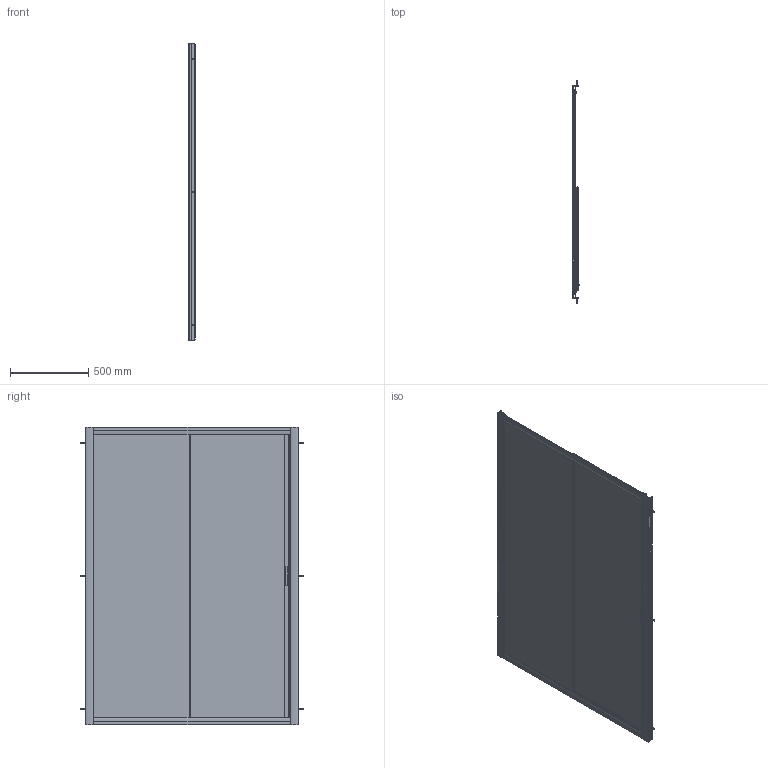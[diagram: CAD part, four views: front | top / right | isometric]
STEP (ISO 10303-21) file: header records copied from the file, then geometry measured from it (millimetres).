
FILE_DESCRIPTION(/* description */ ('VERTICALE TELAIO'),/* implementation_level */ '2;1');
FILE_NAME(/* name */ 'C:\Users\benassi\Desktop\dwg 3D\America quattro 2019\America 4 scorrevole2a 136-143.stp',/* time_stamp */ '2018-07-17T16:04:19+02:00',/* author */ ('benassi'),/* organization */ (''),/* preprocessor_version */ 'ST-DEVELOPER v16.1',/* originating_system */ 'Autodesk Inventor 2016',/* authorisation */ '');
FILE_SCHEMA (('AUTOMOTIVE_DESIGN { 1 0 10303 214 3 1 1 }'));
Products named in the file (39): 10000021273; 10000021561; 10000021560; 10000021285; 10000021562; 10000021295; 10000021296; 10000021564; 10000005270_IPT_000; DIN 9021 - 5,3; ISO 7045 - M4 x 8 - 4.8 - H - ISO; 10000008131; ISO 7049 - ST 2,9 x 19 - F - H; ISO 7049 - ST 3,5 x 22 - F - H; 10000021559; 10000016783; 10000021317; 10000020348; 10000019036; 10000019034; ISO 7049 - ST 3,5 x 9,5 - F - H; 10000021418; 04030279; 10000011143; 10000002064_IPT_000; 10000011144; ISO 7049 - ST 2,9 x 9,5 - F - H; ISO 7050 - ST 3,5 x 13 - C - Z; 10000019608; 10000019607; 10000021289; 10000021298; 10000013432; 10000013433; 10000013434; 10000000295_IPT_000; 10000019154; 158038; 10000021558
Assembly tree (87 placements, depth 3):
  10000021558
    10000021273
    10000021561
    10000021560
    10000021285  x8
    10000021562  x2
    10000021295
    10000021296
    10000021564  x2
    10000005270_IPT_000  x4
    DIN 9021 - 5,3  x4
    ISO 7045 - M4 x 8 - 4.8 - H - ISO  x4
    10000008131  x4
    ISO 7049 - ST 2,9 x 19 - F - H  x2
    ISO 7049 - ST 3,5 x 22 - F - H  x2
    10000021559
    10000016783
    10000021317  x2
    10000020348
    10000019036
    10000019034
    ISO 7049 - ST 3,5 x 9,5 - F - H  x2
    10000021418  x2
    10000011144  x2
      04030279
      10000011143
      10000002064_IPT_000
    ISO 7049 - ST 2,9 x 9,5 - F - H  x2
    ISO 7050 - ST 3,5 x 13 - C - Z  x2
    10000019608
    10000019607
    10000021289
    10000021298  x2
    10000013434  x4
      10000013432
      10000013433
    10000000295_IPT_000
    10000019154  x6
    10000013433  x6
    158038  x6
Bounding box: 45.36 x 1420.2 x 1900 mm (x, y, z)
Volume: 11370258.5 mm3; surface area: 8328475.2 mm2
Topology: 90 solids, 90 shells, 3586 faces, 9125 edges, 5926 vertices
Faces by surface type: plane 1939, cylinder 784, cone 356, bspline 237, torus 202, sphere 68
Full cylindrical faces by diameter (mm): 2.5 x2, 2.75 x2, 2.9 x4, 3 x4, 3.2 x2, 3.242 x4, 3.5 x14, 3.6 x2, 3.621 x4, 3.8 x2, 3.9 x4, 4 x32, 4.2 x6, 5 x6, 5.3 x4, 6.2 x6, 6.3 x10, 7.3 x12, 7.5 x2, 7.6 x20, 7.8 x2, 8.2 x6, 9 x18, 9.8 x4, 14.3 x4, 15 x4, 16.5 x4, 17 x8, 21 x2
Entity records: 62235 total; most frequent: CARTESIAN_POINT 14364, ORIENTED_EDGE 9720, DIRECTION 9507, EDGE_CURVE 4858, AXIS2_PLACEMENT_3D 3315, VERTEX_POINT 3236, LINE 2877, VECTOR 2877
